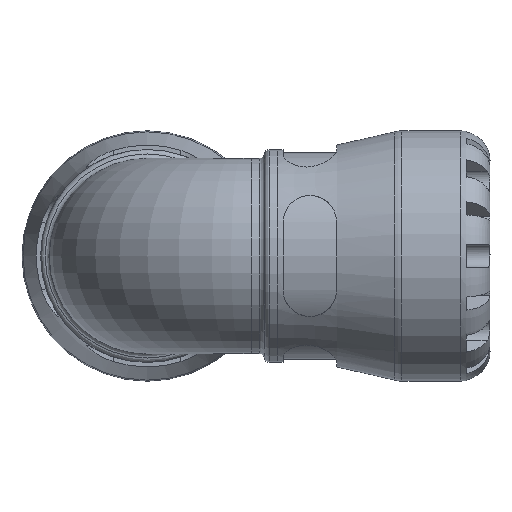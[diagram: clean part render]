
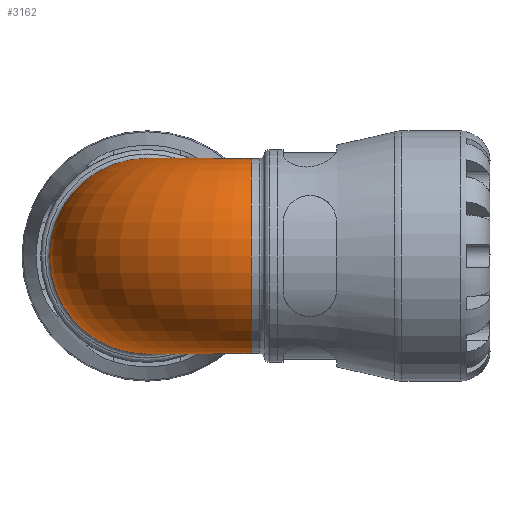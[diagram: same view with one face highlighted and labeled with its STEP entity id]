
A CAD part, front view. The second image highlights one B-rep face of the part: STEP entity #3162.
In plain terms, the highlighted toroidal (fillet/blend) face has major radius 42.752 mm and minor radius 40.17 mm.
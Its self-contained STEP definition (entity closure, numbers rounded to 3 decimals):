
#647=FACE_BOUND('',#881,.T.);
#683=FACE_OUTER_BOUND('',#880,.T.);
#880=EDGE_LOOP('',(#2038));
#881=EDGE_LOOP('',(#2039));
#1112=CIRCLE('',#3363,40.17);
#1113=CIRCLE('',#3364,40.17);
#1282=VERTEX_POINT('',#4626);
#1283=VERTEX_POINT('',#4628);
#1580=EDGE_CURVE('',#1282,#1282,#1112,.T.);
#1581=EDGE_CURVE('',#1283,#1283,#1113,.T.);
#2038=ORIENTED_EDGE('',*,*,#1580,.F.);
#2039=ORIENTED_EDGE('',*,*,#1581,.F.);
#2953=TOROIDAL_SURFACE('',#3362,42.753,40.17);
#3162=ADVANCED_FACE('',(#683,#647),#2953,.T.);
#3362=AXIS2_PLACEMENT_3D('',#4625,#3733,#3734);
#3363=AXIS2_PLACEMENT_3D('',#4627,#3735,#3736);
#3364=AXIS2_PLACEMENT_3D('',#4629,#3737,#3738);
#3733=DIRECTION('center_axis',(0.,0.,1.));
#3734=DIRECTION('ref_axis',(1.,0.,0.));
#3735=DIRECTION('center_axis',(1.,0.,0.));
#3736=DIRECTION('ref_axis',(0.,0.,-1.));
#3737=DIRECTION('center_axis',(0.,1.,0.));
#3738=DIRECTION('ref_axis',(0.,0.,-1.));
#4625=CARTESIAN_POINT('Origin',(42.753,42.753,0.));
#4626=CARTESIAN_POINT('',(42.753,40.17,0.));
#4627=CARTESIAN_POINT('Origin',(42.753,0.,0.));
#4628=CARTESIAN_POINT('',(0.,42.753,-40.17));
#4629=CARTESIAN_POINT('Origin',(0.,42.753,0.));
